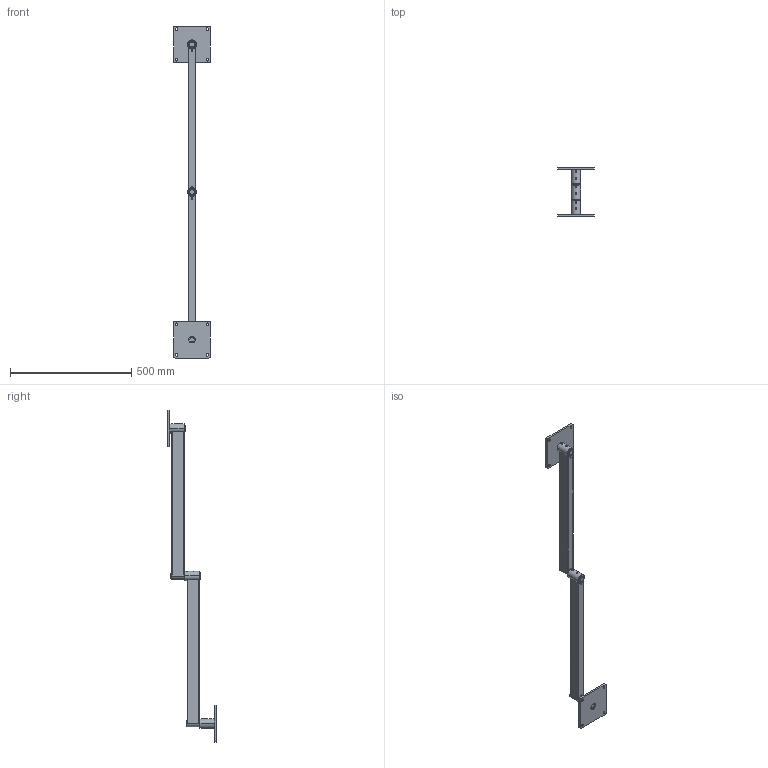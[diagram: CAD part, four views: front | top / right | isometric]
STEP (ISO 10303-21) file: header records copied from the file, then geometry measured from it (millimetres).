
FILE_DESCRIPTION (( 'STEP AP203' ), '1' );
FILE_NAME ('70-0502-00 REV AA, 48in RIGID SYSTEM, TABLE MOUNT, PIVOT PLATE - EXTENDED.STEP', '2025-07-15T23:27:28', ( '' ), ( '' ), 'SwSTEP 2.0', 'SolidWorks 2025', '' );
FILE_SCHEMA (( 'CONFIG_CONTROL_DESIGN' ));
Length unit declared in the file: millimetre
Products named in the file (14): 70-1024-00 REV AA, 24in RIGID SECTION; 007-036-00, SHSS, 1''4-28, .25L_007-036-00; 010-012-00, RETAINING RING, EXTERNAL, .875in SHAFT; 71-0193-RX REV AA, PIN, PIVOT PLATE; 016-008-00, OILITE PLUS BEARING, 0.876 id x 1.002 od x 1.25 lg; 70-0502-00 REV AA, 48in RIGID SYSTEM, TABLE MOUNT, PIVOT PLATE - EXTENDED; 71-0122-RX REV AA, PLATE, PIVOT PLATE; 71-1024-RX REV AA, HOUSING, 24in RIGID; 71-0022-RX REV AA, PIN, RIGID SECTION; 70-0106-00 REV AA, PIVOT PLATE; 016-007-00, OILITE PLUS BEARING, 0.876 id x 1.002 od x 0.75 lg; 70-0015-00 REV AA, TABLE MOUNT; 71-2113-RX REV AA, HOUSING, BEARING, TALL, 1.5OD_MACHINE
Assembly tree (25 placements, depth 3):
  70-0502-00 REV AA, 48in RIGID SYSTEM, TABLE MOUNT, PIVOT PLATE - EXTENDED
    70-0015-00 REV AA, TABLE MOUNT
      71-2113-RX REV AA, HOUSING, BEARING, TALL, 1.5OD_MACHINE
      71-0122-RX REV AA, PLATE, PIVOT PLATE
      016-007-00, OILITE PLUS BEARING, 0.876 id x 1.002 od x 0.75 lg
      016-008-00, OILITE PLUS BEARING, 0.876 id x 1.002 od x 1.25 lg
      007-036-00, SHSS, 1''4-28, .25L_007-036-00
    70-1024-00 REV AA, 24in RIGID SECTION
      71-1024-RX REV AA, HOUSING, 24in RIGID
      71-0022-RX REV AA, PIN, RIGID SECTION
      71-2113-RX REV AA, HOUSING, BEARING, TALL, 1.5OD_MACHINE
      016-007-00, OILITE PLUS BEARING, 0.876 id x 1.002 od x 0.75 lg
      016-008-00, OILITE PLUS BEARING, 0.876 id x 1.002 od x 1.25 lg
      007-036-00, SHSS, 1''4-28, .25L_007-036-00
    70-1024-00 REV AA, 24in RIGID SECTION
      71-1024-RX REV AA, HOUSING, 24in RIGID
      71-0022-RX REV AA, PIN, RIGID SECTION
      71-2113-RX REV AA, HOUSING, BEARING, TALL, 1.5OD_MACHINE
      016-007-00, OILITE PLUS BEARING, 0.876 id x 1.002 od x 0.75 lg
      016-008-00, OILITE PLUS BEARING, 0.876 id x 1.002 od x 1.25 lg
      007-036-00, SHSS, 1''4-28, .25L_007-036-00
      010-012-00, RETAINING RING, EXTERNAL, .875in SHAFT
    70-0106-00 REV AA, PIVOT PLATE
      71-0193-RX REV AA, PIN, PIVOT PLATE
      71-0122-RX REV AA, PLATE, PIVOT PLATE
      010-012-00, RETAINING RING, EXTERNAL, .875in SHAFT
Bounding box: 152.4 x 201.04 x 1371.6 mm (x, y, z)
Volume: 1007516 mm3; surface area: 560278.9 mm2
Topology: 21 solids, 21 shells, 505 faces, 1183 edges, 718 vertices
Faces by surface type: cylinder 214, plane 120, cone 88, torus 74, bspline 9
Entity records: 9580 total; most frequent: CARTESIAN_POINT 2674, DIRECTION 1183, ORIENTED_EDGE 1002, EDGE_CURVE 501, AXIS2_PLACEMENT_3D 495, VERTEX_POINT 310, CIRCLE 251, EDGE_LOOP 251
